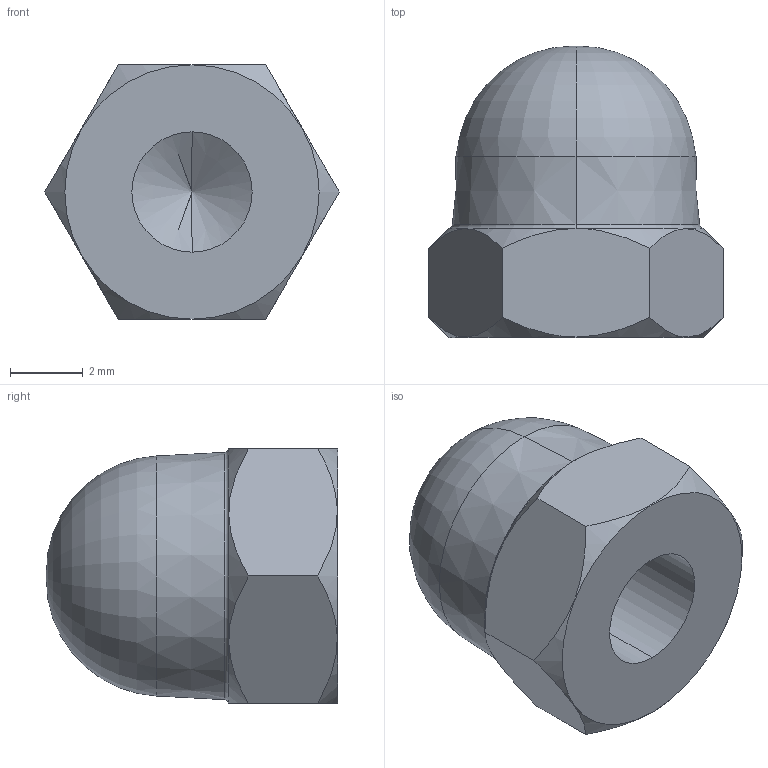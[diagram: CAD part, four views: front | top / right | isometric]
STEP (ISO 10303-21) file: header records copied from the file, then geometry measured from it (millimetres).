
FILE_DESCRIPTION (( 'STEP AP203' ), '1' );
FILE_NAME ('SAGOTOOL.P.TAN_BAU_M4.STEP', '2026-07-09T03:10:10', ( '' ), ( '' ), 'SwSTEP 2.0', 'SolidWorks 2020', '' );
FILE_SCHEMA (( 'CONFIG_CONTROL_DESIGN' ));
Length unit declared in the file: millimetre
Products named in the file (1): SAGOTOOL.P.TAN_BAU_M4
Bounding box: 8.08 x 8 x 7 mm (x, y, z)
Volume: 209.2 mm3; surface area: 283.6 mm2
Topology: 1 solids, 1 shells, 22 faces, 52 edges, 31 vertices
Faces by surface type: cone 8, plane 8, torus 4, cylinder 2
Entity records: 805 total; most frequent: CARTESIAN_POINT 248, ORIENTED_EDGE 100, DIRECTION 98, EDGE_CURVE 50, AXIS2_PLACEMENT_3D 41, VERTEX_POINT 31, EDGE_LOOP 23, FACE_OUTER_BOUND 22
